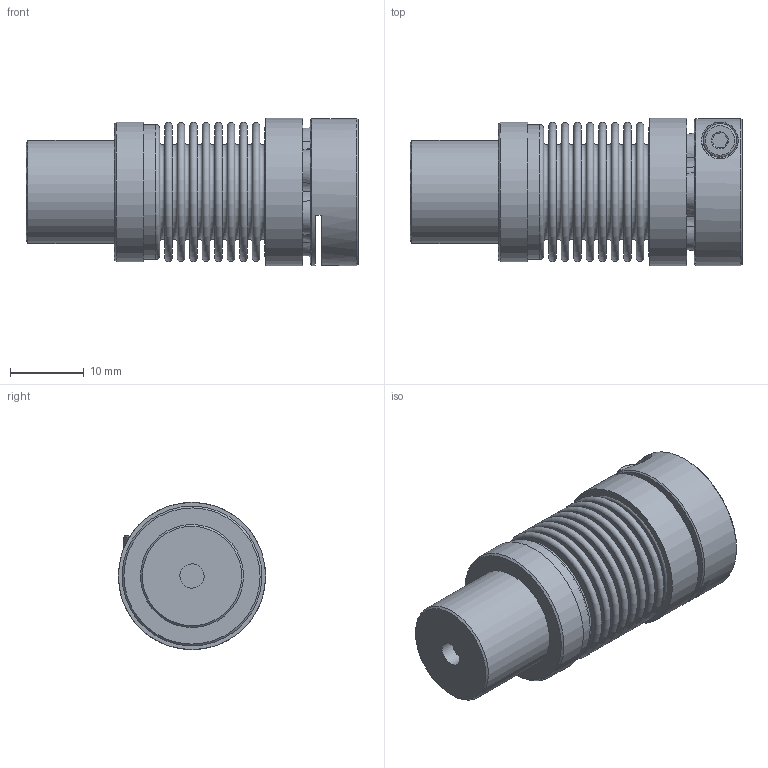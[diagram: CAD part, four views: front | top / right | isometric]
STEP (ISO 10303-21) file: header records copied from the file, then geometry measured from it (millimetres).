
FILE_DESCRIPTION( ( 'KBE1/14 - N7H8 - N14H7 - 98 Sh' ), '1' );
FILE_NAME( 'K:/Konstruktion/Fertigungszeichnungen/Metallbalgkupplung/KB3P/15/KB3P-15-33.stp', '14.12.2015', ( 'KBK-Antriebstechnik' ), ( 'KBK-Antriebstechnik' ), 'PSStep 16.0.42', 'Solid Edge St6', ' ' );
FILE_SCHEMA( ( 'AUTOMOTIVE_DESIGN { 1 0 10303 214 1 1 1 1 }' ) );
Length unit declared in the file: millimetre
Products named in the file (7): Assem1; Stecknabe KB2P-15; ISO EN DIN 4762 M2,5x8; Balgaufnahme KB2P-15 für Step; SN15; ISO EN DIN 4762 M4x16; BL15_Standard_0
Assembly tree (6 placements, depth 2):
  Assem1
    Stecknabe KB2P-15
    ISO EN DIN 4762 M2,5x8
    Balgaufnahme KB2P-15 für Step
    SN15
    ISO EN DIN 4762 M4x16
    BL15_Standard_0
Bounding box: 45.1 x 20 x 20 mm (x, y, z)
Volume: 7676.8 mm3; surface area: 11456.6 mm2
Topology: 6 solids, 6 shells, 204 faces, 400 edges, 255 vertices
Faces by surface type: plane 78, cone 58, torus 43, cylinder 24, bspline 1
Full cylindrical faces by diameter (mm): 2.013 x1, 2.1 x1, 2.5 x2, 2.8 x1, 3 x1, 3.3 x1, 3.5 x1, 4 x2, 4.5 x1, 7 x1, 14 x1, 18 x3, 18.3 x2, 19 x1, 20 x2
Entity records: 7125 total; most frequent: CARTESIAN_POINT 1285, DIRECTION 934, ORIENTED_EDGE 644, AXIS2_PLACEMENT_3D 434, EDGE_LOOP 333, EDGE_CURVE 322, FACE_OUTER_BOUND 267, VERTEX_POINT 263
